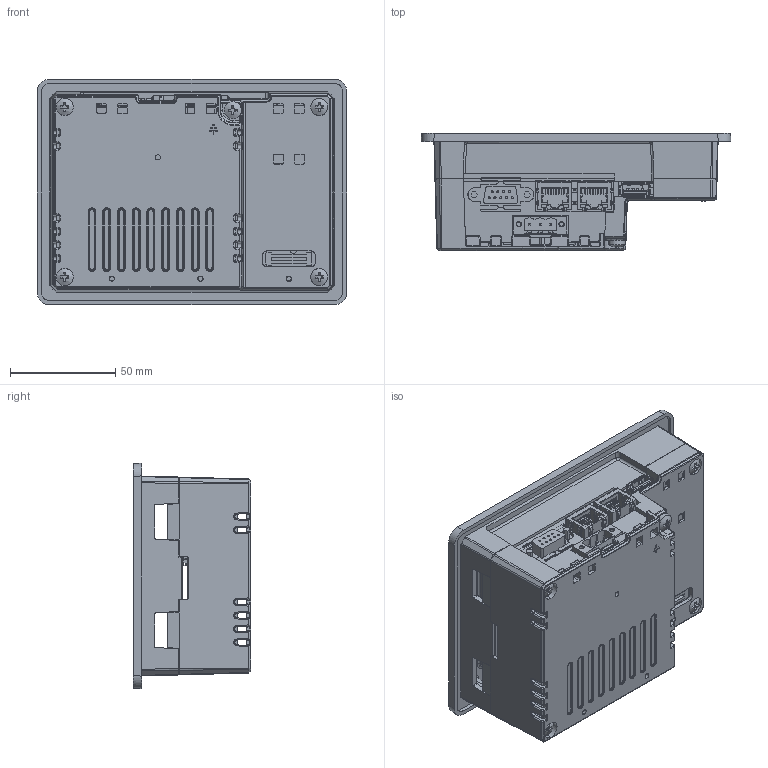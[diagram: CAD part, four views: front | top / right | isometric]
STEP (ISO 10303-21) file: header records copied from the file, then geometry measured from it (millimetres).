
FILE_DESCRIPTION (( 'STEP AP203' ), '1' );
FILE_NAME ('HM504.STEP', '2012-10-11T08:05:02', ( '' ), ( '' ), 'SwSTEP 2.0', 'SolidWorks 2010', '' );
FILE_SCHEMA (( 'CONFIG_CONTROL_DESIGN' ));
Products named in the file (1): HM504
Bounding box: 147 x 55.8 x 107 mm (x, y, z)
Surface area: 135174 mm2 (no closed solid volume)
Topology: 0 solids, 40 shells, 1909 faces, 7871 edges, 5796 vertices
Faces by surface type: plane 907, cylinder 649, bspline 331, cone 22
Entity records: 103510 total; most frequent: CARTESIAN_POINT 44736, ORIENTED_EDGE 11865, DIRECTION 10150, EDGE_CURVE 7864, VERTEX_POINT 5796, LINE 4602, VECTOR 4602, AXIS2_PLACEMENT_3D 2774
